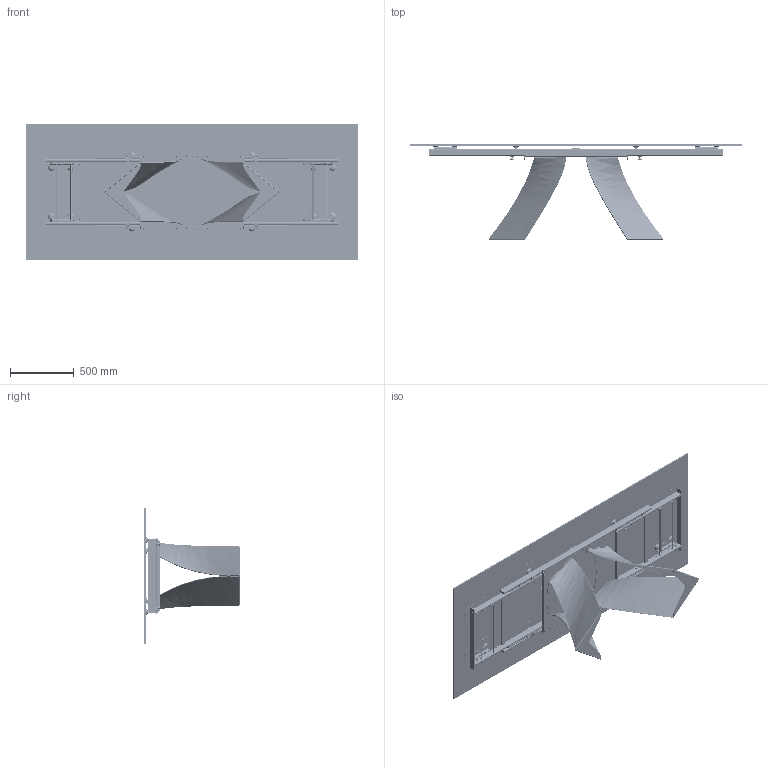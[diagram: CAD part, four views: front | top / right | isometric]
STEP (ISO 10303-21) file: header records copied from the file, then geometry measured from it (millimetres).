
FILE_DESCRIPTION (( 'STEP AP203' ), '1' );
FILE_NAME ('TW31G_Twist 180-260_Open_Glass.STEP', '2024-08-01T13:46:09', ( '' ), ( '' ), 'SwSTEP 2.0', 'SolidWorks 2022', '' );
FILE_SCHEMA (( 'CONFIG_CONTROL_DESIGN' ));
Length unit declared in the file: millimetre
Products named in the file (73): 1000250; 523020814; 1000375; 523020809; 1000273; 523020808; 1000181; 1000096; 1000166; 523020813; 1000305; 1000573; FERMO NEBULA H15,5; 2001011; SAB100301-00-CILINDRO_TWIST ALL PIASTRA ANCORAGGIO V03 ANTRACITE GOFFRATO IMB; 1000001A; 523020805; 1000973; GAMBA TWIST PER ALLUNGABILE_PIASTRA VERTICALE SINISTRA; 1000165; 5230208 SAL_LIBERO; 1000487; 1000280; 1000046; TWS000000BAA-00-TWIST BASE GREZZA X ALLUNGABILE; 523020801; 3001149; 1000262; M6xXXmm_M6x20mm; 521061107_DEFAULT; COLLO TELAIO UNIVERSALE SAB100301 CON FERRAMENTA; SAB100301_01-00-CILINDRO_TWIST ALL PIASTRA ANCORAGGIO V03 ANTRACITE GOFFRATO IMB.SLDASM; GAMBA TWIST PER ALLUNGABILE_PIEDE A TERRA; TTAV04-00-TELAIO ALLUNGABILE X TAVOLI 180 260cm_aperto_02; 1000443; 1000084; 523020811; 1000244; 1001535; SpecchiaturaGAMBA TWIST PER ALLUNGABILE_PIASTRA VERTICALE DESTRA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
Assembly tree (221 placements, depth 5):
  TW31G_Twist 180-260_Open_Glass
    COLLO TELAIO UNIVERSALE SAB100301 CON FERRAMENTA
      SAB100301-00-CILINDRO_TWIST ALL PIASTRA ANCORAGGIO V03 ANTRACITE GOFFRATO IMB
        SAB100301_01-00-CILINDRO_TWIST ALL PIASTRA ANCORAGGIO V03 ANTRACITE GOFFRATO IMB.SLDASM
        SAB100301_02-00-CILINDRO_TWIST ALL PIASTRA ANCORAGGIO V03 ANTRACITE GOFFRATO IMB.SLDASM  x2
      M6xXXmm_M6x20mm  x12
    TWS000000BAA-00-TWIST BASE GREZZA X ALLUNGABILE  x2
      GAMBA TWIST PER ALLUNGABILE_PIASTRA COLLEGAMENTO
      GAMBA TWIST PER ALLUNGABILE_PIASTRA VERTICALE SINISTRA
      GAMBA TWIST PER ALLUNGABILE_PIEDE A TERRA
      SpecchiaturaGAMBA TWIST PER ALLUNGABILE_PIASTRA VERTICALE DESTRA
    TTAV04-00-TELAIO ALLUNGABILE X TAVOLI 180 260cm_aperto_02
      5230208 TEL EST_DEFAULT
        523020803  x2
        523020813  x2
        521061110  x2
        523020811
        FERMO NEBULA H15,5  x4
          1000242
          1000515
          1000325
        1000144  x4
        521060816  x4
        1001535  x4
        1000250  x24
        1000165
        1000305  x4
        1000280  x4
        1000013  x4
        1000865  x4
        3001149  x4
        1000273  x20
        523020814  x4
        1000375  x8
        1000166
        1001576  x4
      5230208 TEL INT_CHIUSO_aperto  x2
        5230208 SAL_LIBERO
          523020808
          523020806
          523020801  x2
          523020804_DEFAULT
          523020805
          521061107_DEFAULT  x4
          2001011  x2
        523020802
        1000487
        RUOTA NEB H23,4
          1000338
          1000443
          1000084
        1000289
        1000096
        1000170
        1000304
        1000244
        1000375
        1000001A
        1000973
        1000262
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Bounding box: 2600 x 745.55 x 1060 mm (x, y, z)
Volume: 37748383 mm3; surface area: 12666830 mm2
Topology: 38 solids, 305 shells, 8136 faces, 19672 edges, 12464 vertices
Faces by surface type: cylinder 3446, plane 3254, cone 740, bspline 528, torus 168
Entity records: 78953 total; most frequent: CARTESIAN_POINT 20560, DIRECTION 10280, ORIENTED_EDGE 9348, EDGE_CURVE 4674, AXIS2_PLACEMENT_3D 3856, VERTEX_POINT 3010, VECTOR 2568, LINE 2568
